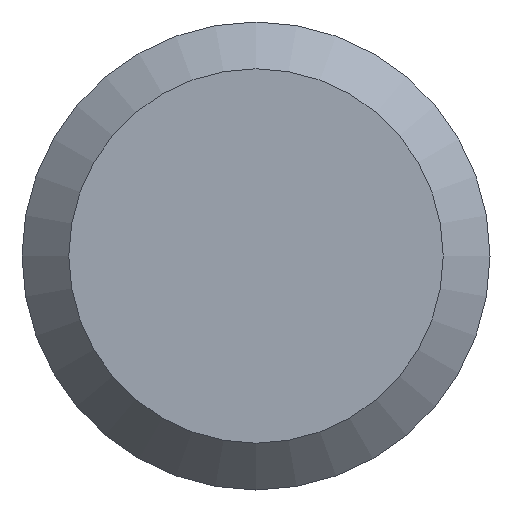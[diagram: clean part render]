
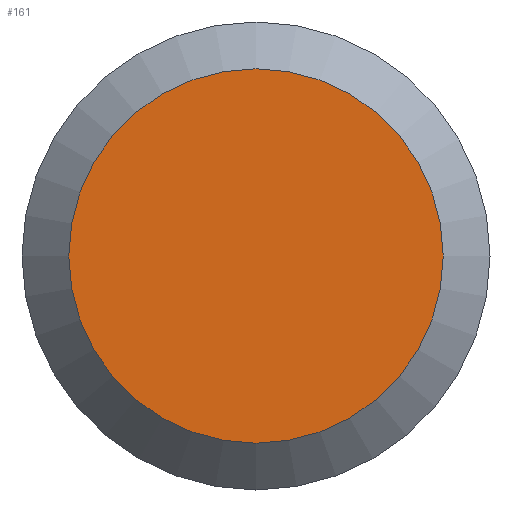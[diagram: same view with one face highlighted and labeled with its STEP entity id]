
A CAD part, left-side view. The second image highlights one B-rep face of the part: STEP entity #161.
In plain terms, the highlighted planar face has unit normal (-1, 0, 0).
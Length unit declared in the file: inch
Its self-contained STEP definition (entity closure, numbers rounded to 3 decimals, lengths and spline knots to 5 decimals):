
#15 = DIRECTION ( 'NONE',  ( 0., 0., -1. ) ) ;
#39 = CARTESIAN_POINT ( 'NONE',  ( 0., 0., -0.10625 ) ) ;
#60 = CARTESIAN_POINT ( 'NONE',  ( 0., 0., 0. ) ) ;
#77 = ORIENTED_EDGE ( 'NONE', *, *, #164, .T. ) ;
#93 = AXIS2_PLACEMENT_3D ( 'NONE', #159, #185, #15 ) ;
#107 = CIRCLE ( 'NONE', #123, 0.10625 ) ;
#123 = AXIS2_PLACEMENT_3D ( 'NONE', #60, #212, #220 ) ;
#129 = EDGE_LOOP ( 'NONE', ( #77 ) ) ;
#148 = VERTEX_POINT ( 'NONE', #39 ) ;
#156 = PLANE ( 'NONE',  #93 ) ;
#159 = CARTESIAN_POINT ( 'NONE',  ( 0., 0.13281, 0. ) ) ;
#161 = ADVANCED_FACE ( 'NONE', ( #183 ), #156, .F. ) ;
#164 = EDGE_CURVE ( 'NONE', #148, #148, #107, .T. ) ;
#183 = FACE_OUTER_BOUND ( 'NONE', #129, .T. ) ;
#185 = DIRECTION ( 'NONE',  ( 1., 0., 0. ) ) ;
#212 = DIRECTION ( 'NONE',  ( -1., 0., 0. ) ) ;
#220 = DIRECTION ( 'NONE',  ( 0., 0., -1. ) ) ;
